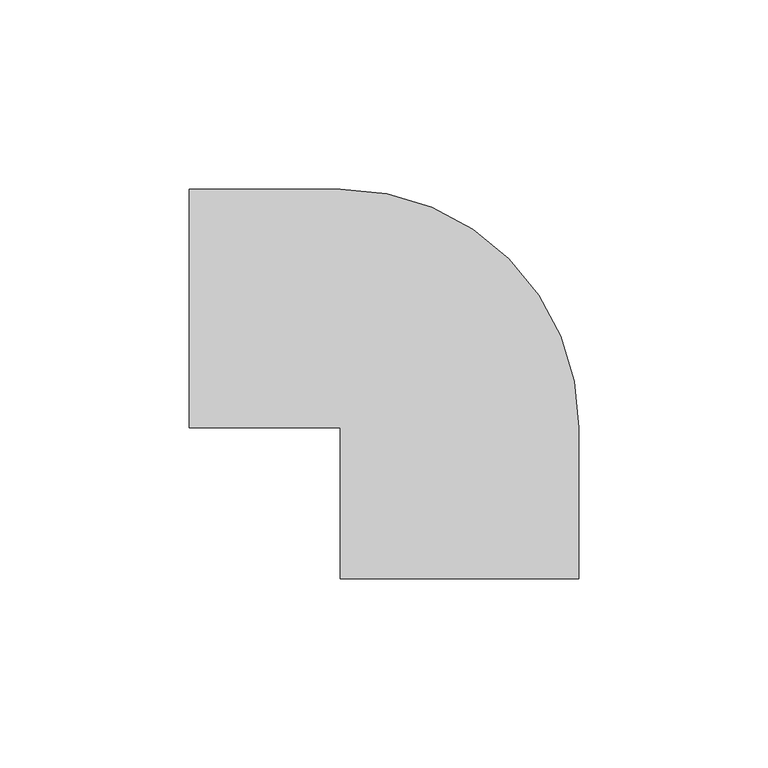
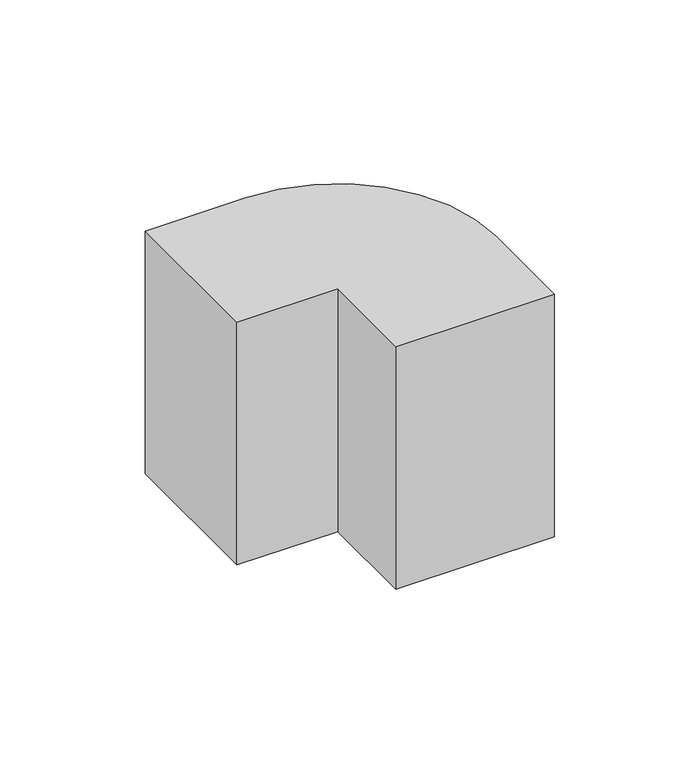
"""IFC4 building model written with IfcOpenShell, lengths in millimetres: proxy geometry, Внешний_угол_КМН : Внешний угол КМН 100х60."""

from ifc_helpers import new_model, si_unit, point, origin, origin_with_axes, origin_2d, place, context, project, spatial, polyline, circle_curve, trimmed, segment, composite_curve, outline, extrude, source, transform, mapped, element, save


def generic_models_52ca76c0(model_context):
    return source(origin(), model_context, "Body", "SweptSolid", [
        extrude(outline(composite_curve([segment(polyline([(-40.0, 0.0), (-40.0, 63.037256), (0.0, 63.037256)]), True, "CONTINUOUS"), segment(trimmed(circle_curve(origin_2d(), 63.037256), [point((0.0, 63.037256))], [point((63.037256, 0.0))], False, "CARTESIAN"), True, "CONTINUOUS"), segment(polyline([(63.037256, 0.0), (63.037256, -40.0), (0.0, -40.0), (0.0, 0.0), (-40.0, 0.0)]), True, "CONTINUOUS")], self_intersect=False)), origin_with_axes(), (0.0, 0.0, 1.0), 102.0),
    ])


if __name__ == "__main__":
    model = new_model("IFC4")
    model_context = context("Model", 3, world=origin())
    ifc_project = project(units=[si_unit("LENGTHUNIT", "METRE", prefix="MILLI")], contexts=[model_context])
    site = spatial("IfcSite", under=ifc_project)
    building = spatial("IfcBuilding", under=site)
    placement = place(None, origin())
    generic_models_shape = generic_models_52ca76c0(model_context)
    element("IfcBuildingElementProxy", 1, Name="Внешний_угол_КМН : Внешний угол КМН 100х60", ObjectType="Внешний_угол_КМН : Внешний угол КМН 100х60", at=placement, inside=building, context=model_context, shape_type="MappedRepresentation", body=[
        mapped(generic_models_shape, transform((0.0, 0.0, 0.0), x_axis=(1.0, 0.0, 0.0), y_axis=(0.0, 1.0, 0.0), z_axis=(0.0, 0.0, 1.0))),
    ])
    save(model, "model.ifc")
